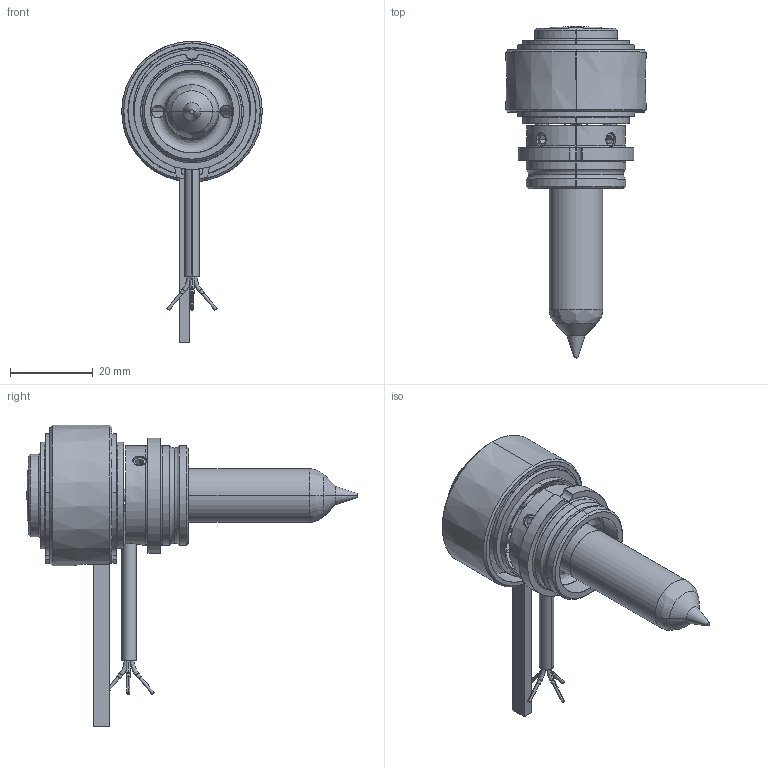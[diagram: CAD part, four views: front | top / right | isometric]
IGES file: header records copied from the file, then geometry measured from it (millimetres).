
Start section: SolidWorks IGES file using analytic representation for surfaces
Global section: file name: C:\Documents and Settings\ws-20\Desktop\TEM\UGGS2520-M-0 [Øf-0.89].IGS; native system: SolidWorks 2012; preprocessor: SolidWorks 2012; author: ws-20; date: 120516.092829; units: millimetre
Bounding box: 34 x 80.3 x 72.9 mm (x, y, z)
Surface area: 14959.9 mm2 (no closed solid volume)
Topology: 0 solids, 0 shells, 205 faces, 2891 edges, 2885 vertices
Faces by surface type: revolution 121, bspline 84
